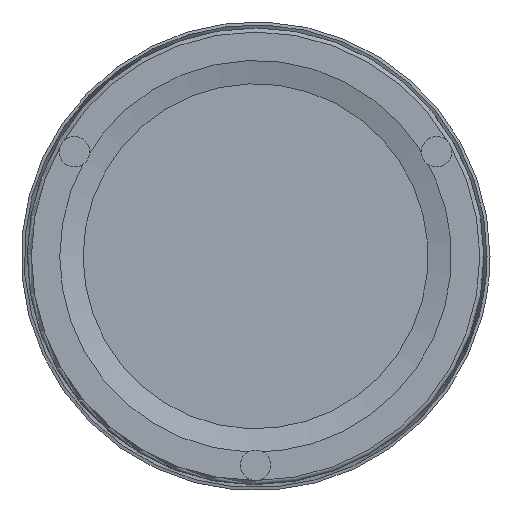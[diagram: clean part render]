
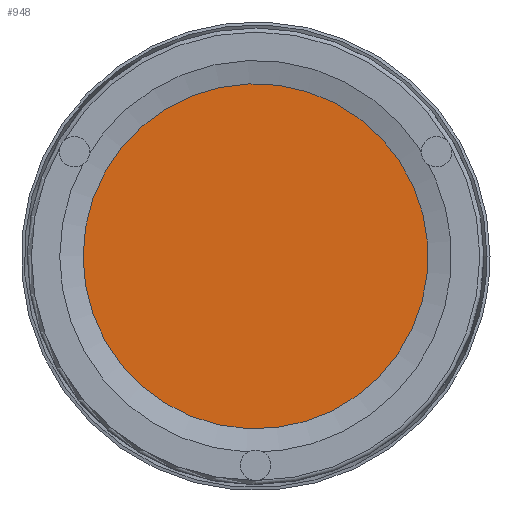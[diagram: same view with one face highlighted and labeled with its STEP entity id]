
A CAD part, front view. The second image highlights one B-rep face of the part: STEP entity #948.
In plain terms, the highlighted planar face has unit normal (0, -1, 0).
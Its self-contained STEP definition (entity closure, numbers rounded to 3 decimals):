
#167=FACE_OUTER_BOUND('',#220,.T.);
#220=EDGE_LOOP('',(#660,#661));
#285=CIRCLE('',#1187,85.);
#286=CIRCLE('',#1188,85.);
#404=VERTEX_POINT('',#1784);
#405=VERTEX_POINT('',#1785);
#513=EDGE_CURVE('',#404,#405,#285,.T.);
#514=EDGE_CURVE('',#405,#404,#286,.T.);
#660=ORIENTED_EDGE('',*,*,#513,.F.);
#661=ORIENTED_EDGE('',*,*,#514,.F.);
#926=PLANE('',#1186);
#948=ADVANCED_FACE('',(#167),#926,.F.);
#1186=AXIS2_PLACEMENT_3D('',#1783,#1389,#1390);
#1187=AXIS2_PLACEMENT_3D('',#1786,#1391,#1392);
#1188=AXIS2_PLACEMENT_3D('',#1787,#1393,#1394);
#1389=DIRECTION('center_axis',(0.,1.,0.));
#1390=DIRECTION('ref_axis',(0.,0.,1.));
#1391=DIRECTION('center_axis',(0.,1.,0.));
#1392=DIRECTION('ref_axis',(-1.,0.,0.));
#1393=DIRECTION('center_axis',(0.,1.,0.));
#1394=DIRECTION('ref_axis',(-1.,0.,0.));
#1783=CARTESIAN_POINT('Origin',(0.,1.612,-88.434));
#1784=CARTESIAN_POINT('',(-85.,1.612,0.));
#1785=CARTESIAN_POINT('',(82.057,1.612,-22.172));
#1786=CARTESIAN_POINT('Origin',(0.,1.612,0.));
#1787=CARTESIAN_POINT('Origin',(0.,1.612,0.));
